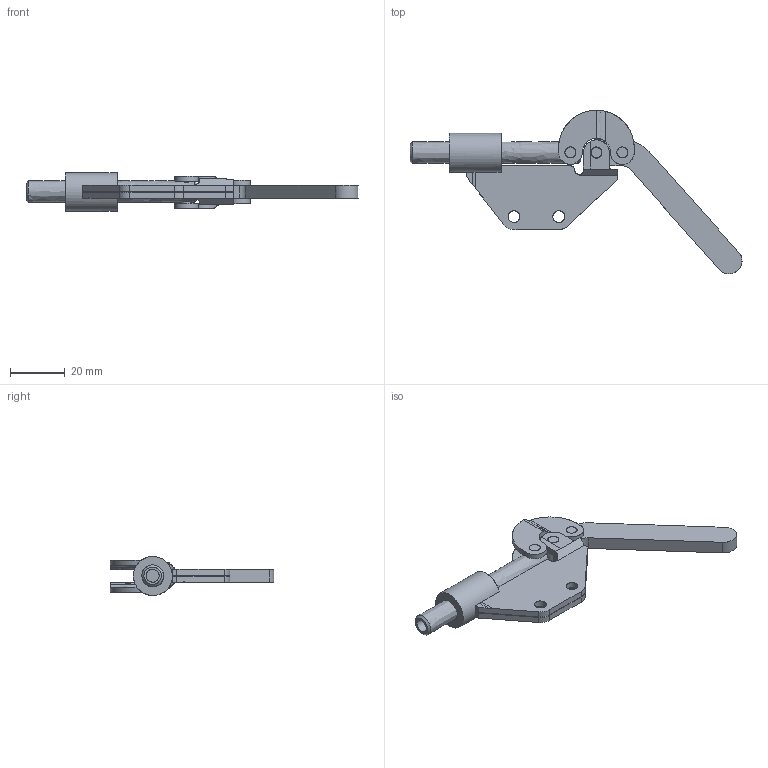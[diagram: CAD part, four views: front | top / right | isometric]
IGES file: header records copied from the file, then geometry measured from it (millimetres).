
Start section:  Autodesk DirectConnect version 7.0.27.0 ---- IGES version 5.3
Global section: file name: C:\Users\Nick\Desktop\PHL-251\3D\PHL-251 Open.igs; native system: Autodesk DirectConnect 7.0.27.0; preprocessor: 7.0.27.0; author: Nick; organization: Unknown; date: 20150529.123226; units: inch
Bounding box: 121.79 x 59.99 x 14.29 mm (x, y, z)
Surface area: 12840.9 mm2 (no closed solid volume)
Topology: 0 solids, 0 shells, 197 faces, 1371 edges, 1364 vertices
Faces by surface type: bspline 197
